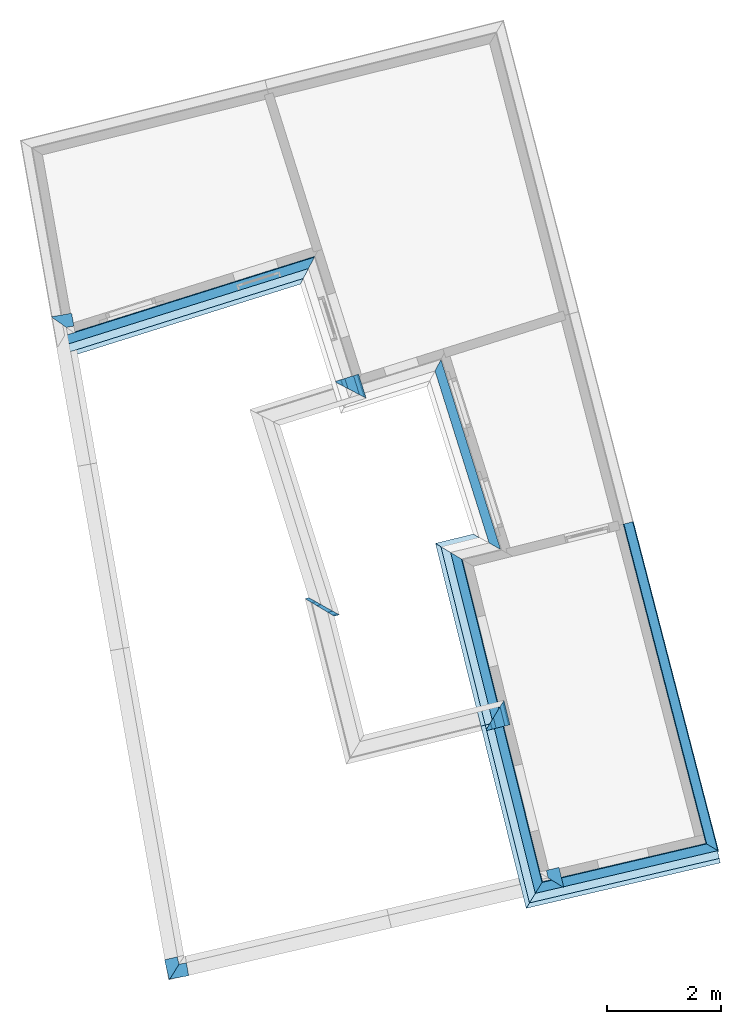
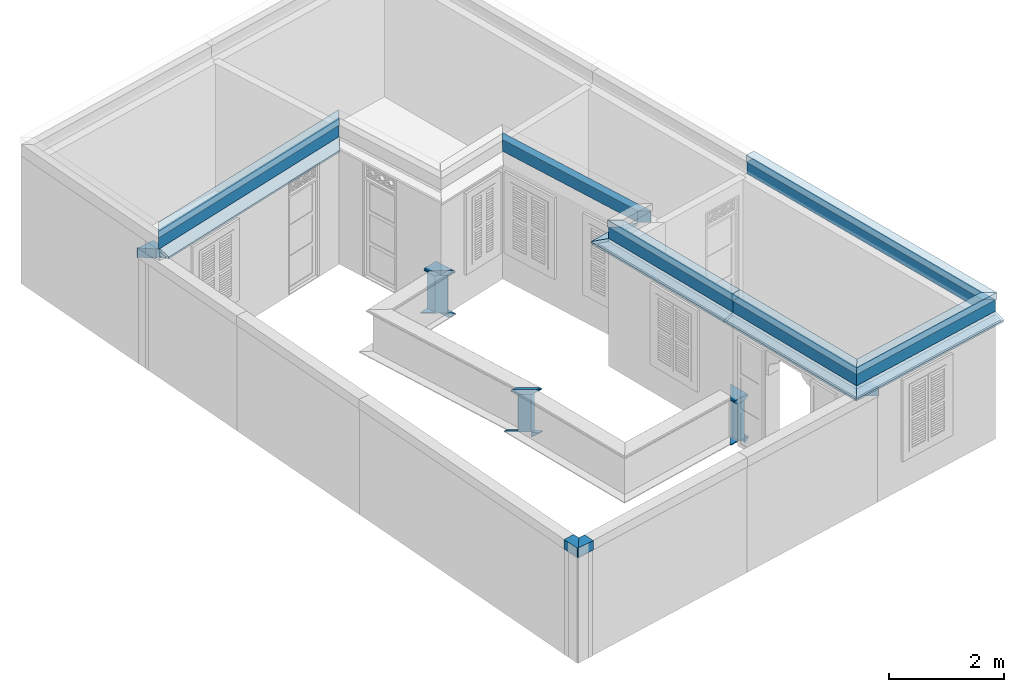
# One storey, part 11 of 13: 20 roofs, 13 walls.
"""IFC4 building model written with IfcOpenShell, lengths in metres."""

from ifc_helpers import new_model, si_unit, frame, origin_with_axes, place, context, subcontext, project, spatial, polyline, outline, extrude, clip, halfspace, material_profile, profile_set, profile_usage, type_object, element, save


model = new_model("IFC4")

# Units and contexts
model_context = context("Model", 3, world=origin_with_axes())
body_context = subcontext(model_context, "Body", "Model", "MODEL_VIEW")
ifc_project = project(units=[si_unit("PLANEANGLEUNIT", "RADIAN"), si_unit("MASSUNIT", "GRAM", prefix="KILO"), si_unit("FORCEUNIT", "NEWTON", prefix="KILO"), si_unit("LENGTHUNIT", "METRE"), si_unit("AREAUNIT", "SQUARE_METRE"), si_unit("VOLUMEUNIT", "CUBIC_METRE")], contexts=[model_context, model_context])

# Site, building, storey
site_placement = place(None, origin_with_axes())
site = spatial("IfcSite", under=ifc_project, at=site_placement, Name="Site plot-0", CompositionType="ELEMENT")
building_placement = place(None, origin_with_axes())
building = spatial("IfcBuilding", under=site, at=building_placement, Name="Building plot-0", CompositionType="ELEMENT")
storey_placement = place(None, frame((0.0, 0.0, 3.6), z_axis=(0.0, 0.0, 1.0), x_axis=(1.0, 0.0, 0.0)))
storey = spatial("IfcBuildingStorey", under=building, at=storey_placement, Name="plot-0 1", CompositionType="ELEMENT", Elevation=3.6)

# Walls
ifc_material_profile_1 = material_profile(None, outline(polyline([(0.265, 2.245), (0.265, 2.445), (0.035, 2.445), (0.035, 2.245), (0.265, 2.245)])))
ifc_profile_set_1 = profile_set([ifc_material_profile_1])
ifc_profile_usage_1 = profile_usage(ifc_profile_set_1)
wall_type_1 = type_object("IfcWallType", Name="parapet street_1", PredefinedType="PARAPET", material=ifc_profile_set_1)
wall_1_placement = place(storey_placement, frame((1.91825049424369, -1.92999598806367, 0.0), z_axis=(-0.228036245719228, 0.973652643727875, 0.0), x_axis=(-0.973652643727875, -0.228036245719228, 0.0)))
element("IfcWall", 1, at=wall_1_placement, inside=storey, type_object=wall_type_1, material=ifc_profile_usage_1, Name="parapet street_1", context=body_context, shape_type="Clipping", body=[
    clip(clip(extrude(outline(polyline([(0.265, 2.245), (0.265, 2.445), (0.035, 2.445), (0.035, 2.245), (0.265, 2.245)])), origin_with_axes(), (0.0, 0.0, 1.0), 2.1), halfspace(frame((0.0, 0.0, 1.1), z_axis=(-6.12323399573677e-17, 0.0, -1.0), x_axis=(0.0, 1.0, 0.0)), True)), halfspace(frame((0.0, 0.0, 1.0), z_axis=(-0.707106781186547, 0.0, -0.707106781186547), x_axis=(0.0, 1.0, 0.0)), False)),
])
ifc_profile_usage_2 = profile_usage(ifc_profile_set_1)
wall_2_placement = place(storey_placement, frame((7.87449755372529, 1.621825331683, 0.0), z_axis=(0.228036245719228, -0.973652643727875, 0.0), x_axis=(0.973652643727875, 0.228036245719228, 0.0)))
element("IfcWall", 2, at=wall_2_placement, inside=storey, type_object=wall_type_1, material=ifc_profile_usage_2, Name="parapet street_1", context=body_context, shape_type="Clipping", body=[
    clip(clip(extrude(outline(polyline([(0.265, 2.245), (0.265, 2.445), (0.035, 2.445), (0.035, 2.245), (0.265, 2.245)])), origin_with_axes(), (0.0, 0.0, 1.0), 2.1), halfspace(frame((0.0, 0.0, 1.1), z_axis=(0.707106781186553, 0.0, -0.707106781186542), x_axis=(0.0, 1.0, 0.0)), True)), halfspace(frame((0.0, 0.0, 1.0), z_axis=(1.60812264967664e-16, 0.0, -1.0), x_axis=(0.0, 1.0, 0.0)), False)),
])
ifc_material_profile_2 = material_profile(None, outline(polyline([(0.265, 2.245), (0.265, 2.445), (0.035, 2.445), (0.035, 2.245), (0.265, 2.245)])))
ifc_profile_set_2 = profile_set([ifc_material_profile_2])
ifc_profile_usage_3 = profile_usage(ifc_profile_set_2)
wall_type_2 = type_object("IfcWallType", Name="parapet party_1", PredefinedType="PARAPET", material=ifc_profile_set_2)
wall_3_placement = place(storey_placement, frame((-1.26505208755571, 10.0208407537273, 0.0), z_axis=(0.984743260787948, 0.174013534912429, 0.0), x_axis=(-0.174013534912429, 0.984743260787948, 0.0)))
element("IfcWall", 3, at=wall_3_placement, inside=storey, type_object=wall_type_2, material=ifc_profile_usage_3, Name="parapet party_1", context=body_context, shape_type="Clipping", body=[
    clip(clip(extrude(outline(polyline([(0.265, 2.245), (0.265, 2.445), (0.035, 2.445), (0.035, 2.245), (0.265, 2.245)])), origin_with_axes(), (0.0, 0.0, 1.0), 2.1), halfspace(frame((0.0, 0.0, 1.1), z_axis=(3.82856869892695e-16, 0.0, -1.0), x_axis=(0.0, 1.0, 0.0)), True)), halfspace(frame((0.0, 0.0, 1.0), z_axis=(-0.707106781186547, 0.0, -0.707106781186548), x_axis=(0.0, 1.0, 0.0)), False)),
])
ifc_profile_usage_4 = profile_usage(ifc_profile_set_2)
wall_4_placement = place(storey_placement, frame((2.7734318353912, -0.764928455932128, 0.0), z_axis=(-0.984743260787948, -0.174013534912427, 0.0), x_axis=(0.174013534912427, -0.984743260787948, 0.0)))
element("IfcWall", 4, at=wall_4_placement, inside=storey, type_object=wall_type_2, material=ifc_profile_usage_4, Name="parapet party_1", context=body_context, shape_type="Clipping", body=[
    clip(clip(extrude(outline(polyline([(0.265, 2.245), (0.265, 2.445), (0.035, 2.445), (0.035, 2.245), (0.265, 2.245)])), origin_with_axes(), (0.0, 0.0, 1.0), 2.1), halfspace(frame((0.0, 0.0, 1.1), z_axis=(0.707106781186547, 0.0, -0.707106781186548), x_axis=(0.0, 1.0, 0.0)), True)), halfspace(frame((0.0, 0.0, 1.0), z_axis=(-6.12323399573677e-17, 0.0, -1.0), x_axis=(0.0, 1.0, 0.0)), False)),
])
ifc_material_profile_3 = material_profile(None, outline(polyline([(0.25, 0.0), (0.25, 0.795), (0.09, 0.795), (0.09, 0.02), (-0.08, 0.02), (-0.08, 0.0), (0.25, 0.0)])))
ifc_profile_set_3 = profile_set([ifc_material_profile_3])
ifc_profile_usage_5 = profile_usage(ifc_profile_set_3)
wall_type_3 = type_object("IfcWallType", Name="parapet internal_0", PredefinedType="PARAPET", material=ifc_profile_set_3)
wall_5_placement = place(storey_placement, frame((6.89714503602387, 4.20700968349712, 0.0), z_axis=(0.241213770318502, -0.97047200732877, 0.0), x_axis=(0.97047200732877, 0.241213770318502, 0.0)))
element("IfcWall", 5, at=wall_5_placement, inside=storey, type_object=wall_type_3, material=ifc_profile_usage_5, Name="parapet internal_0", context=body_context, shape_type="Clipping", body=[
    clip(clip(extrude(outline(polyline([(0.25, 0.0), (0.25, 0.795), (0.09, 0.795), (0.09, 0.02), (-0.08, 0.02), (-0.08, 0.0), (0.25, 0.0)])), origin_with_axes(), (0.0, 0.0, 1.0), 2.1), halfspace(frame((0.0, 0.0, 1.1), z_axis=(1.60812264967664e-16, 0.0, -1.0), x_axis=(0.0, 1.0, 0.0)), True)), halfspace(frame((0.0, 0.0, 1.0), z_axis=(-0.707106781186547, 0.0, -0.707106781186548), x_axis=(0.0, 1.0, 0.0)), False)),
])
ifc_profile_usage_6 = profile_usage(ifc_profile_set_3)
wall_6_placement = place(storey_placement, frame((5.02397783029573, 5.64508734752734, 0.0), z_axis=(-0.970472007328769, -0.241213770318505, 0.0), x_axis=(0.241213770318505, -0.970472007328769, 0.0)))
element("IfcWall", 6, at=wall_6_placement, inside=storey, type_object=wall_type_3, material=ifc_profile_usage_6, Name="parapet internal_0", context=body_context, shape_type="Clipping", body=[
    clip(clip(extrude(outline(polyline([(0.25, 0.0), (0.25, 0.795), (0.09, 0.795), (0.09, 0.02), (-0.08, 0.02), (-0.08, 0.0), (0.25, 0.0)])), origin_with_axes(), (0.0, 0.0, 1.0), 2.07326198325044), halfspace(frame((0.0, 0.0, 1.07326198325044), z_axis=(-0.707106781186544, 0.0, -0.707106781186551), x_axis=(0.0, 1.0, 0.0)), True)), halfspace(frame((0.0, 0.0, 1.0), z_axis=(-0.728268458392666, 0.0, -0.685291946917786), x_axis=(0.0, 1.0, 0.0)), False)),
])
ifc_profile_usage_7 = profile_usage(ifc_profile_set_3)
wall_7_placement = place(storey_placement, frame((4.20031995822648, 10.2511637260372, 0.0), z_axis=(0.299724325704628, -0.954025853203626, 0.0), x_axis=(0.954025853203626, 0.299724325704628, 0.0)))
element("IfcWall", 7, at=wall_7_placement, inside=storey, type_object=wall_type_3, material=ifc_profile_usage_7, Name="parapet internal_0", context=body_context, shape_type="Clipping", body=[
    clip(clip(extrude(outline(polyline([(0.25, 0.0), (0.25, 0.795), (0.09, 0.795), (0.09, 0.02), (-0.08, 0.02), (-0.08, 0.0), (0.25, 0.0)])), origin_with_axes(), (0.0, 0.0, 1.0), 2.1), halfspace(frame((0.0, 0.0, 1.1), z_axis=(0.707106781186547, 0.0, -0.707106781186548), x_axis=(0.0, 1.0, 0.0)), True)), halfspace(frame((0.0, 0.0, 1.0), z_axis=(-5.0532154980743e-16, 0.0, -1.0), x_axis=(0.0, 1.0, 0.0)), False)),
])
ifc_material_profile_4 = material_profile(None, outline(polyline([(0.265, 0.795), (0.268, 0.807), (0.274, 0.816), (0.283, 0.822), (0.295, 0.825), (0.295, 0.84), (0.305, 0.84), (0.317, 0.842), (0.326, 0.849), (0.333, 0.858), (0.335, 0.87), (0.333, 0.882), (0.326, 0.891), (0.317, 0.898), (0.305, 0.9), (0.035, 0.9), (0.023, 0.898), (0.014, 0.891), (0.007, 0.882), (0.005, 0.87), (0.007, 0.858), (0.014, 0.849), (0.023, 0.842), (0.035, 0.84), (0.045, 0.84), (0.045, 0.825), (0.057, 0.822), (0.066, 0.816), (0.072, 0.807), (0.075, 0.795), (0.265, 0.795)])))
ifc_profile_set_4 = profile_set([ifc_material_profile_4])
ifc_profile_usage_8 = profile_usage(ifc_profile_set_4)
wall_type_4 = type_object("IfcWallType", Name="parapet internal_1", PredefinedType="PARAPET", material=ifc_profile_set_4)
wall_8_placement = place(storey_placement, frame((6.89714503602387, 4.20700968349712, 0.0), z_axis=(0.241213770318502, -0.97047200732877, 0.0), x_axis=(0.97047200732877, 0.241213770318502, 0.0)))
element("IfcWall", 8, at=wall_8_placement, inside=storey, type_object=wall_type_4, material=ifc_profile_usage_8, Name="parapet internal_1", context=body_context, shape_type="Clipping", body=[
    clip(clip(extrude(outline(polyline([(0.265, 0.795), (0.268, 0.807), (0.274, 0.816), (0.283, 0.822), (0.295, 0.825), (0.295, 0.84), (0.305, 0.84), (0.317, 0.842), (0.326, 0.849), (0.333, 0.858), (0.335, 0.87), (0.333, 0.882), (0.326, 0.891), (0.317, 0.898), (0.305, 0.9), (0.035, 0.9), (0.023, 0.898), (0.014, 0.891), (0.007, 0.882), (0.005, 0.87), (0.007, 0.858), (0.014, 0.849), (0.023, 0.842), (0.035, 0.84), (0.045, 0.84), (0.045, 0.825), (0.057, 0.822), (0.066, 0.816), (0.072, 0.807), (0.075, 0.795), (0.265, 0.795)])), origin_with_axes(), (0.0, 0.0, 1.0), 2.1), halfspace(frame((0.0, 0.0, 1.1), z_axis=(1.60812264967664e-16, 0.0, -1.0), x_axis=(0.0, 1.0, 0.0)), True)), halfspace(frame((0.0, 0.0, 1.0), z_axis=(-0.707106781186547, 0.0, -0.707106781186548), x_axis=(0.0, 1.0, 0.0)), False)),
])
ifc_profile_usage_9 = profile_usage(ifc_profile_set_4)
wall_9_placement = place(storey_placement, frame((5.02397783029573, 5.64508734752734, 0.0), z_axis=(-0.970472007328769, -0.241213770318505, 0.0), x_axis=(0.241213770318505, -0.970472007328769, 0.0)))
element("IfcWall", 9, at=wall_9_placement, inside=storey, type_object=wall_type_4, material=ifc_profile_usage_9, Name="parapet internal_1", context=body_context, shape_type="Clipping", body=[
    clip(clip(extrude(outline(polyline([(0.265, 0.795), (0.268, 0.807), (0.274, 0.816), (0.283, 0.822), (0.295, 0.825), (0.295, 0.84), (0.305, 0.84), (0.317, 0.842), (0.326, 0.849), (0.333, 0.858), (0.335, 0.87), (0.333, 0.882), (0.326, 0.891), (0.317, 0.898), (0.305, 0.9), (0.035, 0.9), (0.023, 0.898), (0.014, 0.891), (0.007, 0.882), (0.005, 0.87), (0.007, 0.858), (0.014, 0.849), (0.023, 0.842), (0.035, 0.84), (0.045, 0.84), (0.045, 0.825), (0.057, 0.822), (0.066, 0.816), (0.072, 0.807), (0.075, 0.795), (0.265, 0.795)])), origin_with_axes(), (0.0, 0.0, 1.0), 2.07326198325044), halfspace(frame((0.0, 0.0, 1.07326198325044), z_axis=(-0.707106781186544, 0.0, -0.707106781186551), x_axis=(0.0, 1.0, 0.0)), True)), halfspace(frame((0.0, 0.0, 1.0), z_axis=(-0.728268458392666, 0.0, -0.685291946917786), x_axis=(0.0, 1.0, 0.0)), False)),
])
ifc_profile_usage_10 = profile_usage(ifc_profile_set_4)
wall_10_placement = place(storey_placement, frame((4.20031995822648, 10.2511637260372, 0.0), z_axis=(0.299724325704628, -0.954025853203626, 0.0), x_axis=(0.954025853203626, 0.299724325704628, 0.0)))
element("IfcWall", 10, at=wall_10_placement, inside=storey, type_object=wall_type_4, material=ifc_profile_usage_10, Name="parapet internal_1", context=body_context, shape_type="Clipping", body=[
    clip(clip(extrude(outline(polyline([(0.265, 0.795), (0.268, 0.807), (0.274, 0.816), (0.283, 0.822), (0.295, 0.825), (0.295, 0.84), (0.305, 0.84), (0.317, 0.842), (0.326, 0.849), (0.333, 0.858), (0.335, 0.87), (0.333, 0.882), (0.326, 0.891), (0.317, 0.898), (0.305, 0.9), (0.035, 0.9), (0.023, 0.898), (0.014, 0.891), (0.007, 0.882), (0.005, 0.87), (0.007, 0.858), (0.014, 0.849), (0.023, 0.842), (0.035, 0.84), (0.045, 0.84), (0.045, 0.825), (0.057, 0.822), (0.066, 0.816), (0.072, 0.807), (0.075, 0.795), (0.265, 0.795)])), origin_with_axes(), (0.0, 0.0, 1.0), 2.1), halfspace(frame((0.0, 0.0, 1.1), z_axis=(0.707106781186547, 0.0, -0.707106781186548), x_axis=(0.0, 1.0, 0.0)), True)), halfspace(frame((0.0, 0.0, 1.0), z_axis=(-5.0532154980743e-16, 0.0, -1.0), x_axis=(0.0, 1.0, 0.0)), False)),
])
ifc_material_profile_5 = material_profile(None, outline(polyline([(0.25, -0.1), (0.265, -0.1), (0.265, -0.085), (0.278, -0.084), (0.289, -0.081), (0.301, -0.074), (0.309, -0.065), (0.315, -0.055), (0.324, -0.044), (0.334, -0.038), (0.345, -0.035), (0.345, -0.015), (0.25, 0.0), (0.25, -0.1)])))
ifc_profile_set_5 = profile_set([ifc_material_profile_5])
ifc_profile_usage_11 = profile_usage(ifc_profile_set_5)
wall_type_5 = type_object("IfcWallType", Name="parapet internal_2", PredefinedType="PARAPET", material=ifc_profile_set_5)
wall_11_placement = place(storey_placement, frame((6.89714503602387, 4.20700968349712, 0.0), z_axis=(0.241213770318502, -0.97047200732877, 0.0), x_axis=(0.97047200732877, 0.241213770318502, 0.0)))
element("IfcWall", 11, at=wall_11_placement, inside=storey, type_object=wall_type_5, material=ifc_profile_usage_11, Name="parapet internal_2", context=body_context, shape_type="Clipping", body=[
    clip(clip(extrude(outline(polyline([(0.25, -0.1), (0.265, -0.1), (0.265, -0.085), (0.278, -0.084), (0.289, -0.081), (0.301, -0.074), (0.309, -0.065), (0.315, -0.055), (0.324, -0.044), (0.334, -0.038), (0.345, -0.035), (0.345, -0.015), (0.25, 0.0), (0.25, -0.1)])), origin_with_axes(), (0.0, 0.0, 1.0), 2.1), halfspace(frame((0.0, 0.0, 1.1), z_axis=(1.60812264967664e-16, 0.0, -1.0), x_axis=(0.0, 1.0, 0.0)), True)), halfspace(frame((0.0, 0.0, 1.0), z_axis=(-0.707106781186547, 0.0, -0.707106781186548), x_axis=(0.0, 1.0, 0.0)), False)),
])
ifc_profile_usage_12 = profile_usage(ifc_profile_set_5)
wall_12_placement = place(storey_placement, frame((5.02397783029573, 5.64508734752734, 0.0), z_axis=(-0.970472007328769, -0.241213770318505, 0.0), x_axis=(0.241213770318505, -0.970472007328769, 0.0)))
element("IfcWall", 12, at=wall_12_placement, inside=storey, type_object=wall_type_5, material=ifc_profile_usage_12, Name="parapet internal_2", context=body_context, shape_type="Clipping", body=[
    clip(clip(extrude(outline(polyline([(0.25, -0.1), (0.265, -0.1), (0.265, -0.085), (0.278, -0.084), (0.289, -0.081), (0.301, -0.074), (0.309, -0.065), (0.315, -0.055), (0.324, -0.044), (0.334, -0.038), (0.345, -0.035), (0.345, -0.015), (0.25, 0.0), (0.25, -0.1)])), origin_with_axes(), (0.0, 0.0, 1.0), 2.07326198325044), halfspace(frame((0.0, 0.0, 1.07326198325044), z_axis=(-0.707106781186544, 0.0, -0.707106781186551), x_axis=(0.0, 1.0, 0.0)), True)), halfspace(frame((0.0, 0.0, 1.0), z_axis=(-0.728268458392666, 0.0, -0.685291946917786), x_axis=(0.0, 1.0, 0.0)), False)),
])
ifc_profile_usage_13 = profile_usage(ifc_profile_set_5)
wall_13_placement = place(storey_placement, frame((4.20031995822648, 10.2511637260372, 0.0), z_axis=(0.299724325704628, -0.954025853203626, 0.0), x_axis=(0.954025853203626, 0.299724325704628, 0.0)))
element("IfcWall", 13, at=wall_13_placement, inside=storey, type_object=wall_type_5, material=ifc_profile_usage_13, Name="parapet internal_2", context=body_context, shape_type="Clipping", body=[
    clip(clip(extrude(outline(polyline([(0.25, -0.1), (0.265, -0.1), (0.265, -0.085), (0.278, -0.084), (0.289, -0.081), (0.301, -0.074), (0.309, -0.065), (0.315, -0.055), (0.324, -0.044), (0.334, -0.038), (0.345, -0.035), (0.345, -0.015), (0.25, 0.0), (0.25, -0.1)])), origin_with_axes(), (0.0, 0.0, 1.0), 2.1), halfspace(frame((0.0, 0.0, 1.1), z_axis=(0.707106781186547, 0.0, -0.707106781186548), x_axis=(0.0, 1.0, 0.0)), True)), halfspace(frame((0.0, 0.0, 1.0), z_axis=(-5.0532154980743e-16, 0.0, -1.0), x_axis=(0.0, 1.0, 0.0)), False)),
])

# Roofs
ifc_material_profile_6 = material_profile(None, outline(polyline([(0.25, 0.0), (0.25, 0.245), (0.09, 0.245), (0.09, 0.0), (0.25, 0.0)])))
ifc_profile_set_6 = profile_set([ifc_material_profile_6])
ifc_profile_usage_14 = profile_usage(ifc_profile_set_6)
roof_type_1 = type_object("IfcRoofType", Name="roofline_0", PredefinedType="FREEFORM", material=ifc_profile_set_6)
roof_1_placement = place(storey_placement, frame((5.06367939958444, 11.8737639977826, 2.7), z_axis=(-0.954025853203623, -0.299724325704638, 0.0), x_axis=(0.299724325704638, -0.954025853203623, 0.0)))
element("IfcRoof", 14, at=roof_1_placement, inside=storey, type_object=roof_type_1, material=ifc_profile_usage_14, Name="roofline_0", context=body_context, shape_type="Clipping", body=[
    clip(clip(extrude(outline(polyline([(0.25, 0.0), (0.25, 0.245), (0.09, 0.245), (0.09, 0.0), (0.25, 0.0)])), origin_with_axes(), (0.0, 0.0, 1.0), 6.60151300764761), halfspace(frame((0.0, 0.0, 5.60151300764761), z_axis=(0.751378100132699, 0.0, -0.659871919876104), x_axis=(0.0, 1.0, 0.0)), True)), halfspace(frame((0.0, 0.0, 1.0), z_axis=(0.70710678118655, 0.0, -0.707106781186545), x_axis=(0.0, 1.0, 0.0)), False)),
])
ifc_profile_usage_15 = profile_usage(ifc_profile_set_6)
roof_2_placement = place(storey_placement, frame((7.74497551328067, 5.29287635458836, 2.7), z_axis=(-0.299724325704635, 0.954025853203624, 0.0), x_axis=(-0.954025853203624, -0.299724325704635, 0.0)))
element("IfcRoof", 15, at=roof_2_placement, inside=storey, type_object=roof_type_1, material=ifc_profile_usage_15, Name="roofline_0", context=body_context, shape_type="Clipping", body=[
    clip(clip(extrude(outline(polyline([(0.25, 0.0), (0.25, 0.245), (0.09, 0.245), (0.09, 0.0), (0.25, 0.0)])), origin_with_axes(), (0.0, 0.0, 1.0), 5.69275383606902), halfspace(frame((0.0, 0.0, 4.69275383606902), z_axis=(-0.707106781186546, 0.0, -0.707106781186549), x_axis=(0.0, 1.0, 0.0)), True)), halfspace(frame((0.0, 0.0, 1.0), z_axis=(0.72826845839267, 0.0, -0.685291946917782), x_axis=(0.0, 1.0, 0.0)), False)),
])
ifc_profile_usage_16 = profile_usage(ifc_profile_set_6)
roof_3_placement = place(storey_placement, frame((7.68041889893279, 2.34084193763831, 2.7), z_axis=(-0.241213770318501, 0.970472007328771, 0.0), x_axis=(-0.970472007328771, -0.241213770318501, 0.0)))
element("IfcRoof", 16, at=roof_3_placement, inside=storey, type_object=roof_type_1, material=ifc_profile_usage_16, Name="roofline_0", context=body_context, shape_type="Clipping", body=[
    clip(clip(extrude(outline(polyline([(0.25, 0.0), (0.25, 0.245), (0.09, 0.245), (0.09, 0.0), (0.25, 0.0)])), origin_with_axes(), (0.0, 0.0, 1.0), 4.84744784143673), halfspace(frame((0.0, 0.0, 3.84744784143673), z_axis=(0.70710678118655, 0.0, -0.707106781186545), x_axis=(0.0, 1.0, 0.0)), True)), halfspace(frame((0.0, 0.0, 1.0), z_axis=(-7.27366154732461e-16, 0.0, -1.0), x_axis=(0.0, 1.0, 0.0)), False)),
])
ifc_profile_usage_17 = profile_usage(ifc_profile_set_6)
roof_4_placement = place(storey_placement, frame((8.36655119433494, -0.419664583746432, 2.7), z_axis=(-0.2412137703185, 0.970472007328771, 0.0), x_axis=(-0.970472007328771, -0.2412137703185, 0.0)))
element("IfcRoof", 17, at=roof_4_placement, inside=storey, type_object=roof_type_1, material=ifc_profile_usage_17, Name="roofline_0", context=body_context, shape_type="Clipping", body=[
    clip(clip(extrude(outline(polyline([(0.25, 0.0), (0.25, 0.245), (0.09, 0.245), (0.09, 0.0), (0.25, 0.0)])), origin_with_axes(), (0.0, 0.0, 1.0), 4.84449886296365), halfspace(frame((0.0, 0.0, 3.84449886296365), z_axis=(-7.27366154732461e-16, 0.0, -1.0), x_axis=(0.0, 1.0, 0.0)), True)), halfspace(frame((0.0, 0.0, 1.0), z_axis=(-0.702297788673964, 0.0, -0.711883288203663), x_axis=(0.0, 1.0, 0.0)), False)),
])
ifc_profile_usage_18 = profile_usage(ifc_profile_set_6)
roof_5_placement = place(storey_placement, frame((11.825388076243, 1.41738511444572, 2.7), z_axis=(-0.973652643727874, -0.22803624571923, 0.0), x_axis=(0.22803624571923, -0.973652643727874, 0.0)))
element("IfcRoof", 18, at=roof_5_placement, inside=storey, type_object=roof_type_1, material=ifc_profile_usage_18, Name="roofline_0", context=body_context, shape_type="Clipping", body=[
    clip(clip(extrude(outline(polyline([(0.25, 0.0), (0.25, 0.245), (0.09, 0.245), (0.09, 0.0), (0.25, 0.0)])), origin_with_axes(), (0.0, 0.0, 1.0), 4.80017522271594), halfspace(frame((0.0, 0.0, 3.80017522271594), z_axis=(0.702297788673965, 0.0, -0.711883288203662), x_axis=(0.0, 1.0, 0.0)), True)), halfspace(frame((0.0, 0.0, 1.0), z_axis=(-0.71524732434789, 0.0, -0.698871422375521), x_axis=(0.0, 1.0, 0.0)), False)),
])
ifc_profile_usage_19 = profile_usage(ifc_profile_set_6)
roof_6_placement = place(storey_placement, frame((9.16567715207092, 7.70489822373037, 2.7), z_axis=(0.250522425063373, -0.968110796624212, 0.0), x_axis=(0.968110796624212, 0.250522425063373, 0.0)))
element("IfcRoof", 19, at=roof_6_placement, inside=storey, type_object=roof_type_1, material=ifc_profile_usage_19, Name="roofline_0", context=body_context, shape_type="Clipping", body=[
    clip(clip(extrude(outline(polyline([(0.25, 0.0), (0.25, 0.245), (0.09, 0.245), (0.09, 0.0), (0.25, 0.0)])), origin_with_axes(), (0.0, 0.0, 1.0), 7.73016908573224), halfspace(frame((0.0, 0.0, 6.73016908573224), z_axis=(0.715247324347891, 0.0, -0.69887142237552), x_axis=(0.0, 1.0, 0.0)), True)), halfspace(frame((0.0, 0.0, 1.0), z_axis=(1.60812264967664e-16, 0.0, -1.0), x_axis=(0.0, 1.0, 0.0)), False)),
])
ifc_material_profile_7 = material_profile(None, outline(polyline([(0.265, 0.245), (0.265, 0.395), (0.075, 0.395), (0.075, 0.245), (0.265, 0.245)])))
ifc_profile_set_7 = profile_set([ifc_material_profile_7])
ifc_profile_usage_20 = profile_usage(ifc_profile_set_7)
roof_type_2 = type_object("IfcRoofType", Name="roofline_1", PredefinedType="FREEFORM", material=ifc_profile_set_7)
roof_7_placement = place(storey_placement, frame((5.06367939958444, 11.8737639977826, 2.7), z_axis=(-0.954025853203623, -0.299724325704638, 0.0), x_axis=(0.299724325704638, -0.954025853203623, 0.0)))
element("IfcRoof", 20, at=roof_7_placement, inside=storey, type_object=roof_type_2, material=ifc_profile_usage_20, Name="roofline_1", context=body_context, shape_type="Clipping", body=[
    clip(clip(extrude(outline(polyline([(0.265, 0.245), (0.265, 0.395), (0.075, 0.395), (0.075, 0.245), (0.265, 0.245)])), origin_with_axes(), (0.0, 0.0, 1.0), 6.60151300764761), halfspace(frame((0.0, 0.0, 5.60151300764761), z_axis=(0.751378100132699, 0.0, -0.659871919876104), x_axis=(0.0, 1.0, 0.0)), True)), halfspace(frame((0.0, 0.0, 1.0), z_axis=(0.70710678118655, 0.0, -0.707106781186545), x_axis=(0.0, 1.0, 0.0)), False)),
])
ifc_profile_usage_21 = profile_usage(ifc_profile_set_7)
roof_8_placement = place(storey_placement, frame((7.68041889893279, 2.34084193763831, 2.7), z_axis=(-0.241213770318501, 0.970472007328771, 0.0), x_axis=(-0.970472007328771, -0.241213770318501, 0.0)))
element("IfcRoof", 21, at=roof_8_placement, inside=storey, type_object=roof_type_2, material=ifc_profile_usage_21, Name="roofline_1", context=body_context, shape_type="Clipping", body=[
    clip(clip(extrude(outline(polyline([(0.265, 0.245), (0.265, 0.395), (0.075, 0.395), (0.075, 0.245), (0.265, 0.245)])), origin_with_axes(), (0.0, 0.0, 1.0), 4.84744784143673), halfspace(frame((0.0, 0.0, 3.84744784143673), z_axis=(0.70710678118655, 0.0, -0.707106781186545), x_axis=(0.0, 1.0, 0.0)), True)), halfspace(frame((0.0, 0.0, 1.0), z_axis=(-7.27366154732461e-16, 0.0, -1.0), x_axis=(0.0, 1.0, 0.0)), False)),
])
ifc_profile_usage_22 = profile_usage(ifc_profile_set_7)
roof_9_placement = place(storey_placement, frame((8.36655119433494, -0.419664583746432, 2.7), z_axis=(-0.2412137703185, 0.970472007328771, 0.0), x_axis=(-0.970472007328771, -0.2412137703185, 0.0)))
element("IfcRoof", 22, at=roof_9_placement, inside=storey, type_object=roof_type_2, material=ifc_profile_usage_22, Name="roofline_1", context=body_context, shape_type="Clipping", body=[
    clip(clip(extrude(outline(polyline([(0.265, 0.245), (0.265, 0.395), (0.075, 0.395), (0.075, 0.245), (0.265, 0.245)])), origin_with_axes(), (0.0, 0.0, 1.0), 4.84449886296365), halfspace(frame((0.0, 0.0, 3.84449886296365), z_axis=(-7.27366154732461e-16, 0.0, -1.0), x_axis=(0.0, 1.0, 0.0)), True)), halfspace(frame((0.0, 0.0, 1.0), z_axis=(-0.702297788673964, 0.0, -0.711883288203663), x_axis=(0.0, 1.0, 0.0)), False)),
])
ifc_profile_usage_23 = profile_usage(ifc_profile_set_7)
roof_10_placement = place(storey_placement, frame((11.825388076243, 1.41738511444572, 2.7), z_axis=(-0.973652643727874, -0.22803624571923, 0.0), x_axis=(0.22803624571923, -0.973652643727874, 0.0)))
element("IfcRoof", 23, at=roof_10_placement, inside=storey, type_object=roof_type_2, material=ifc_profile_usage_23, Name="roofline_1", context=body_context, shape_type="Clipping", body=[
    clip(clip(extrude(outline(polyline([(0.265, 0.245), (0.265, 0.395), (0.075, 0.395), (0.075, 0.245), (0.265, 0.245)])), origin_with_axes(), (0.0, 0.0, 1.0), 4.80017522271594), halfspace(frame((0.0, 0.0, 3.80017522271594), z_axis=(0.702297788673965, 0.0, -0.711883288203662), x_axis=(0.0, 1.0, 0.0)), True)), halfspace(frame((0.0, 0.0, 1.0), z_axis=(-0.71524732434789, 0.0, -0.698871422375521), x_axis=(0.0, 1.0, 0.0)), False)),
])
ifc_profile_usage_24 = profile_usage(ifc_profile_set_7)
roof_11_placement = place(storey_placement, frame((9.16567715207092, 7.70489822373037, 2.7), z_axis=(0.250522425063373, -0.968110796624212, 0.0), x_axis=(0.968110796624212, 0.250522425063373, 0.0)))
element("IfcRoof", 24, at=roof_11_placement, inside=storey, type_object=roof_type_2, material=ifc_profile_usage_24, Name="roofline_1", context=body_context, shape_type="Clipping", body=[
    clip(clip(extrude(outline(polyline([(0.265, 0.245), (0.265, 0.395), (0.075, 0.395), (0.075, 0.245), (0.265, 0.245)])), origin_with_axes(), (0.0, 0.0, 1.0), 7.73016908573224), halfspace(frame((0.0, 0.0, 6.73016908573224), z_axis=(0.715247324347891, 0.0, -0.69887142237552), x_axis=(0.0, 1.0, 0.0)), True)), halfspace(frame((0.0, 0.0, 1.0), z_axis=(1.60812264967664e-16, 0.0, -1.0), x_axis=(0.0, 1.0, 0.0)), False)),
])
ifc_material_profile_8 = material_profile(None, outline(polyline([(0.25, -0.19), (0.275, -0.19), (0.275, -0.15), (0.39, -0.15), (0.39, -0.107509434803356), (0.25, -0.0629639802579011), (0.25, -0.19)])))
ifc_profile_set_8 = profile_set([ifc_material_profile_8])
ifc_profile_usage_25 = profile_usage(ifc_profile_set_8)
roof_type_3 = type_object("IfcRoofType", Name="eaves_0", PredefinedType="FREEFORM", material=ifc_profile_set_8)
roof_12_placement = place(storey_placement, frame((5.06367939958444, 11.8737639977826, 2.7), z_axis=(-0.954025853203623, -0.299724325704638, 0.0), x_axis=(0.299724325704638, -0.954025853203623, 0.0)))
element("IfcRoof", 25, at=roof_12_placement, inside=storey, type_object=roof_type_3, material=ifc_profile_usage_25, Name="eaves_0", context=body_context, shape_type="Clipping", body=[
    clip(clip(extrude(outline(polyline([(0.25, -0.19), (0.275, -0.19), (0.275, -0.15), (0.39, -0.15), (0.39, -0.107509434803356), (0.25, -0.0629639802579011), (0.25, -0.19)])), origin_with_axes(), (0.0, 0.0, 1.0), 6.85151300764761), halfspace(frame((0.0, 0.0, 5.85151300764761), z_axis=(1.60812264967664e-16, 0.0, -1.0), x_axis=(0.0, 1.0, 0.0)), True)), halfspace(frame((0.0, 0.0, 1.0), z_axis=(0.70710678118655, 0.0, -0.707106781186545), x_axis=(0.0, 1.0, 0.0)), False)),
])
ifc_profile_usage_26 = profile_usage(ifc_profile_set_8)
roof_13_placement = place(storey_placement, frame((7.68041889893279, 2.34084193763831, 2.7), z_axis=(-0.241213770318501, 0.970472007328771, 0.0), x_axis=(-0.970472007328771, -0.241213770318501, 0.0)))
element("IfcRoof", 26, at=roof_13_placement, inside=storey, type_object=roof_type_3, material=ifc_profile_usage_26, Name="eaves_0", context=body_context, shape_type="Clipping", body=[
    clip(clip(extrude(outline(polyline([(0.25, -0.19), (0.275, -0.19), (0.275, -0.15), (0.39, -0.15), (0.39, -0.107509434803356), (0.25, -0.0629639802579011), (0.25, -0.19)])), origin_with_axes(), (0.0, 0.0, 1.0), 4.84744784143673), halfspace(frame((0.0, 0.0, 3.84744784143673), z_axis=(0.70710678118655, 0.0, -0.707106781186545), x_axis=(0.0, 1.0, 0.0)), True)), halfspace(frame((0.0, 0.0, 1.0), z_axis=(-7.27366154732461e-16, 0.0, -1.0), x_axis=(0.0, 1.0, 0.0)), False)),
])
ifc_profile_usage_27 = profile_usage(ifc_profile_set_8)
roof_14_placement = place(storey_placement, frame((8.36655119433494, -0.419664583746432, 2.7), z_axis=(-0.2412137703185, 0.970472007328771, 0.0), x_axis=(-0.970472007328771, -0.2412137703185, 0.0)))
element("IfcRoof", 27, at=roof_14_placement, inside=storey, type_object=roof_type_3, material=ifc_profile_usage_27, Name="eaves_0", context=body_context, shape_type="Clipping", body=[
    clip(clip(extrude(outline(polyline([(0.25, -0.19), (0.275, -0.19), (0.275, -0.15), (0.39, -0.15), (0.39, -0.107509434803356), (0.25, -0.0629639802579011), (0.25, -0.19)])), origin_with_axes(), (0.0, 0.0, 1.0), 4.84449886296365), halfspace(frame((0.0, 0.0, 3.84449886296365), z_axis=(-7.27366154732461e-16, 0.0, -1.0), x_axis=(0.0, 1.0, 0.0)), True)), halfspace(frame((0.0, 0.0, 1.0), z_axis=(-0.702297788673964, 0.0, -0.711883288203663), x_axis=(0.0, 1.0, 0.0)), False)),
])
ifc_profile_usage_28 = profile_usage(ifc_profile_set_8)
roof_15_placement = place(storey_placement, frame((12.0688012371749, 1.47439417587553, 2.7), z_axis=(-0.973652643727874, -0.22803624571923, 0.0), x_axis=(0.22803624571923, -0.973652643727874, 0.0)))
element("IfcRoof", 28, at=roof_15_placement, inside=storey, type_object=roof_type_3, material=ifc_profile_usage_28, Name="eaves_0", context=body_context, shape_type="Clipping", body=[
    clip(clip(extrude(outline(polyline([(0.25, -0.19), (0.275, -0.19), (0.275, -0.15), (0.39, -0.15), (0.39, -0.107509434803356), (0.25, -0.0629639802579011), (0.25, -0.19)])), origin_with_axes(), (0.0, 0.0, 1.0), 5.05017522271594), halfspace(frame((0.0, 0.0, 4.05017522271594), z_axis=(0.702297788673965, 0.0, -0.711883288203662), x_axis=(0.0, 1.0, 0.0)), True)), halfspace(frame((0.0, 0.0, 1.0), z_axis=(6.04901474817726e-16, 0.0, -1.0), x_axis=(0.0, 1.0, 0.0)), False)),
])
ifc_material_profile_9 = material_profile(None, outline(polyline([(0.25, -0.0629639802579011), (0.451807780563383, -0.127175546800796), (0.47, -0.07), (0.25, 0.0), (0.25, -0.0629639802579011)])))
ifc_profile_set_9 = profile_set([ifc_material_profile_9])
ifc_profile_usage_29 = profile_usage(ifc_profile_set_9)
roof_type_4 = type_object("IfcRoofType", Name="eaves_1", PredefinedType="FREEFORM", material=ifc_profile_set_9)
roof_16_placement = place(storey_placement, frame((5.06367939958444, 11.8737639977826, 2.7), z_axis=(-0.954025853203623, -0.299724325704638, 0.0), x_axis=(0.299724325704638, -0.954025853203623, 0.0)))
element("IfcRoof", 29, at=roof_16_placement, inside=storey, type_object=roof_type_4, material=ifc_profile_usage_29, Name="eaves_1", context=body_context, shape_type="Clipping", body=[
    clip(clip(extrude(outline(polyline([(0.25, -0.0629639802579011), (0.451807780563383, -0.127175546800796), (0.47, -0.07), (0.25, 0.0), (0.25, -0.0629639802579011)])), origin_with_axes(), (0.0, 0.0, 1.0), 6.85151300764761), halfspace(frame((0.0, 0.0, 5.85151300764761), z_axis=(1.60812264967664e-16, 0.0, -1.0), x_axis=(0.0, 1.0, 0.0)), True)), halfspace(frame((0.0, 0.0, 1.0), z_axis=(0.70710678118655, 0.0, -0.707106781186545), x_axis=(0.0, 1.0, 0.0)), False)),
])
ifc_profile_usage_30 = profile_usage(ifc_profile_set_9)
roof_17_placement = place(storey_placement, frame((5.78188949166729, 5.83346859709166, 2.7), z_axis=(0.970472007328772, 0.241213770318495, 0.0), x_axis=(-0.241213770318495, 0.970472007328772, 0.0)))
element("IfcRoof", 30, at=roof_17_placement, inside=storey, type_object=roof_type_4, material=ifc_profile_usage_30, Name="eaves_1", context=body_context, shape_type="Clipping", body=[
    clip(clip(extrude(outline(polyline([(0.25, -0.0629639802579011), (0.451807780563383, -0.127175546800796), (0.47, -0.07), (0.25, 0.0), (0.25, -0.0629639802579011)])), origin_with_axes(), (0.0, 0.0, 1.0), 2.71397184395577), halfspace(frame((0.0, 0.0, 1.71397184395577), z_axis=(-0.728268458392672, 0.0, -0.68529194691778), x_axis=(0.0, 1.0, 0.0)), True)), halfspace(frame((0.0, 0.0, 1.0), z_axis=(-0.707106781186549, 0.0, -0.707106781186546), x_axis=(0.0, 1.0, 0.0)), False)),
])
ifc_profile_usage_31 = profile_usage(ifc_profile_set_9)
roof_18_placement = place(storey_placement, frame((7.68041889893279, 2.34084193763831, 2.7), z_axis=(-0.241213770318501, 0.970472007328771, 0.0), x_axis=(-0.970472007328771, -0.241213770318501, 0.0)))
element("IfcRoof", 31, at=roof_18_placement, inside=storey, type_object=roof_type_4, material=ifc_profile_usage_31, Name="eaves_1", context=body_context, shape_type="Clipping", body=[
    clip(clip(extrude(outline(polyline([(0.25, -0.0629639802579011), (0.451807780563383, -0.127175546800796), (0.47, -0.07), (0.25, 0.0), (0.25, -0.0629639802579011)])), origin_with_axes(), (0.0, 0.0, 1.0), 4.84744784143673), halfspace(frame((0.0, 0.0, 3.84744784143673), z_axis=(0.70710678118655, 0.0, -0.707106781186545), x_axis=(0.0, 1.0, 0.0)), True)), halfspace(frame((0.0, 0.0, 1.0), z_axis=(-7.27366154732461e-16, 0.0, -1.0), x_axis=(0.0, 1.0, 0.0)), False)),
])
ifc_profile_usage_32 = profile_usage(ifc_profile_set_9)
roof_19_placement = place(storey_placement, frame((8.36655119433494, -0.419664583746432, 2.7), z_axis=(-0.2412137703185, 0.970472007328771, 0.0), x_axis=(-0.970472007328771, -0.2412137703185, 0.0)))
element("IfcRoof", 32, at=roof_19_placement, inside=storey, type_object=roof_type_4, material=ifc_profile_usage_32, Name="eaves_1", context=body_context, shape_type="Clipping", body=[
    clip(clip(extrude(outline(polyline([(0.25, -0.0629639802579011), (0.451807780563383, -0.127175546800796), (0.47, -0.07), (0.25, 0.0), (0.25, -0.0629639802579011)])), origin_with_axes(), (0.0, 0.0, 1.0), 4.84449886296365), halfspace(frame((0.0, 0.0, 3.84449886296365), z_axis=(-7.27366154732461e-16, 0.0, -1.0), x_axis=(0.0, 1.0, 0.0)), True)), halfspace(frame((0.0, 0.0, 1.0), z_axis=(-0.702297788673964, 0.0, -0.711883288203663), x_axis=(0.0, 1.0, 0.0)), False)),
])
ifc_profile_usage_33 = profile_usage(ifc_profile_set_9)
roof_20_placement = place(storey_placement, frame((12.0688012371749, 1.47439417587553, 2.7), z_axis=(-0.973652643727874, -0.22803624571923, 0.0), x_axis=(0.22803624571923, -0.973652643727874, 0.0)))
element("IfcRoof", 33, at=roof_20_placement, inside=storey, type_object=roof_type_4, material=ifc_profile_usage_33, Name="eaves_1", context=body_context, shape_type="Clipping", body=[
    clip(clip(extrude(outline(polyline([(0.25, -0.0629639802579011), (0.451807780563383, -0.127175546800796), (0.47, -0.07), (0.25, 0.0), (0.25, -0.0629639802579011)])), origin_with_axes(), (0.0, 0.0, 1.0), 5.05017522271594), halfspace(frame((0.0, 0.0, 4.05017522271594), z_axis=(0.702297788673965, 0.0, -0.711883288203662), x_axis=(0.0, 1.0, 0.0)), True)), halfspace(frame((0.0, 0.0, 1.0), z_axis=(6.04901474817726e-16, 0.0, -1.0), x_axis=(0.0, 1.0, 0.0)), False)),
])

save(model, "model.ifc")
